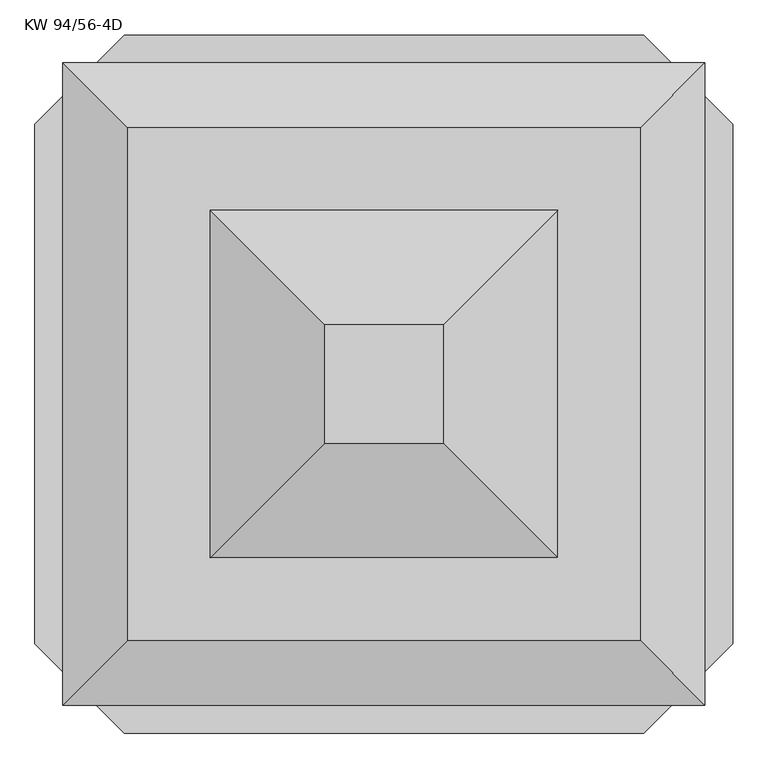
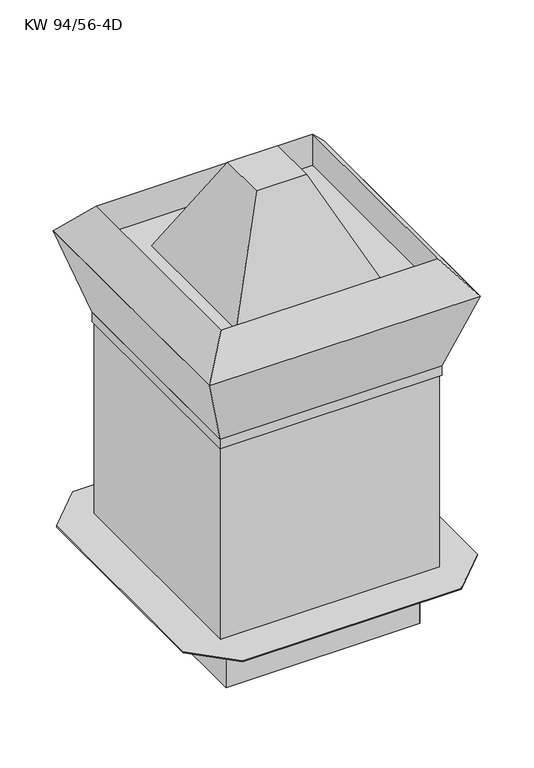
"""IFC4 building model written with IfcOpenShell, lengths in millimetres: proxy geometry, KORF_Вентилятор_Вытяжной_Крышный_KW : KW 94/56-4D."""

import ifcopenshell
import ifcopenshell.guid

model = None  # the IFC model being written
_history = None  # IfcOwnerHistory: only IFC2X3 demands one
_inside = {}  # id of a spatial element -> (the spatial element, [elements in it])
_under = {}  # id of a project, library or spatial element -> (it, [spatial elements below it])
_declared = {}  # id of a project -> (the project, [libraries it declares])
_typed = {}  # id of a type object -> (the type object, [elements of that type])
_made_of = {}  # id of a material, layer set ... -> (it, [elements and type objects made of it])


def new_model(schema):
    """Start an empty IFC model of exactly this schema.

    Asked for "IFC4X3", IfcOpenShell would pick the latest addendum, in which some entities
    have other attributes; the version numbers below select the first issue.
    IFC2X3 requires an IfcOwnerHistory on every rooted entity: one is made here for all.
    """
    global model, _history
    if schema == "IFC4X3":
        model = ifcopenshell.file(schema_version=(4, 3, 0, 0))
    else:
        model = ifcopenshell.file(schema=schema)
    _inside.clear()
    _under.clear()
    _declared.clear()
    _typed.clear()
    _made_of.clear()
    _history = None
    if model.schema == "IFC2X3":
        org = make("IfcOrganization", Name="unknown")
        user = make(
            "IfcPersonAndOrganization",
            ThePerson=make("IfcPerson", FamilyName="unknown"),
            TheOrganization=org,
        )
        app = make(
            "IfcApplication",
            ApplicationDeveloper=org,
            Version="unknown",
            ApplicationFullName="unknown",
            ApplicationIdentifier="unknown",
        )
        _history = make(
            "IfcOwnerHistory",
            OwningUser=user,
            OwningApplication=app,
            ChangeAction="ADDED",
            CreationDate=0,
        )
    return model


def make(cls, **values):
    """One entity of the class cls with the attributes given. An attribute that is None is left unset."""
    return model.create_entity(
        cls, **{name: value for name, value in values.items() if value is not None}
    )


def rooted(cls, **values):
    """An entity with a GlobalId (a new one), such as an element, a storey or a relation."""
    return make(cls, GlobalId=ifcopenshell.guid.new(), OwnerHistory=_history, **values)


def si_unit(unit_type, name, prefix=None):
    """IfcSIUnit, for example si_unit("LENGTHUNIT", "METRE", prefix="MILLI")."""
    return make("IfcSIUnit", UnitType=unit_type, Prefix=prefix, Name=name)


def assignment(units):
    """IfcUnitAssignment: the units of a project."""
    return None if units is None else make("IfcUnitAssignment", Units=units)


def point(xyz):
    """IfcCartesianPoint."""
    return None if xyz is None else make("IfcCartesianPoint", Coordinates=xyz)


def direction(xyz):
    """IfcDirection."""
    return None if xyz is None else make("IfcDirection", DirectionRatios=xyz)


def frame(location, z_axis=None, x_axis=None):
    """IfcAxis2Placement3D, a coordinate frame: its origin and axes. An axis left out is left unset."""
    return make(
        "IfcAxis2Placement3D",
        Location=point(location),
        Axis=direction(z_axis),
        RefDirection=direction(x_axis),
    )


def origin():
    """The frame at (0, 0, 0) with its axes left unset."""
    return frame((0.0, 0.0, 0.0))


def place(relative_to, where):
    """IfcLocalPlacement: puts the frame where relative to a parent placement (None: the world)."""
    return make(
        "IfcLocalPlacement", PlacementRelTo=relative_to, RelativePlacement=where
    )


def context(
    kind, dimensions, precision=None, world=None, true_north=None, identifier=None
):
    """IfcGeometricRepresentationContext, for example the 3D "Model" context."""
    return make(
        "IfcGeometricRepresentationContext",
        ContextIdentifier=identifier,
        ContextType=kind,
        CoordinateSpaceDimension=dimensions,
        Precision=precision,
        WorldCoordinateSystem=world,
        TrueNorth=true_north,
    )


def project(units=None, contexts=None):
    """IfcProject with its units and contexts."""
    return rooted(
        "IfcProject",
        Name="project",
        RepresentationContexts=contexts,
        UnitsInContext=assignment(units),
    )


def spatial(cls, under=None, at=None, **own):
    """A site, building, storey or space (cls), placed at a placement, below another one or the project."""
    s = rooted(cls, ObjectPlacement=at, **own)
    if under is not None:
        _under.setdefault(under.id(), (under, []))[1].append(s)
    return s


def polyline(points):
    """IfcPolyline through the points."""
    return make("IfcPolyline", Points=[point(p) for p in points])


def outline(outer, holes=None, kind="AREA"):
    """IfcArbitraryClosedProfileDef: a profile drawn as a closed curve; with holes, ...WithVoids."""
    if holes is None:
        return make("IfcArbitraryClosedProfileDef", ProfileType=kind, OuterCurve=outer)
    return make(
        "IfcArbitraryProfileDefWithVoids",
        ProfileType=kind,
        OuterCurve=outer,
        InnerCurves=holes,
    )


def extrude(swept, where, along, depth):
    """IfcExtrudedAreaSolid: the profile swept, set in the frame where, extruded along a direction by depth."""
    return make(
        "IfcExtrudedAreaSolid",
        SweptArea=swept,
        Position=where,
        ExtrudedDirection=direction(along),
        Depth=depth,
    )


def faces_of(points, faces, orient=None, outer=None):
    """IfcFace entities. A face is a list of loops; a loop is a list of indices into points, from 0.

    orient and outer hold one flag for each loop. By default every Orientation is true, the
    first loop of a face is its IfcFaceOuterBound and the others are IfcFaceBound.
    """
    made = []
    for i, loops in enumerate(faces):
        bounds = []
        for j, loop in enumerate(loops):
            is_outer = j == 0 if outer is None else outer[i][j]
            bounds.append(
                make(
                    "IfcFaceOuterBound" if is_outer else "IfcFaceBound",
                    Bound=make("IfcPolyLoop", Polygon=[points[k] for k in loop]),
                    Orientation=True if orient is None else orient[i][j],
                )
            )
        made.append(make("IfcFace", Bounds=bounds))
    return made


def faceted_brep(points, faces, orient=None, outer=None, voids=None):
    """IfcFacetedBrep: a solid bounded by flat faces; with voids (closed shells), ...WithVoids."""
    shared = [point(p) for p in points]
    hull = make("IfcClosedShell", CfsFaces=faces_of(shared, faces, orient, outer))
    if voids is None:
        return make("IfcFacetedBrep", Outer=hull)
    return make(
        "IfcFacetedBrepWithVoids",
        Outer=hull,
        Voids=[
            make(cls, CfsFaces=faces_of(shared, fs, o, b)) for cls, fs, o, b in voids
        ],
    )


def shape(context_of_items, identifier, shape_type, items):
    """IfcShapeRepresentation: the items that make up one representation, for example the "Body"."""
    return make(
        "IfcShapeRepresentation",
        ContextOfItems=context_of_items,
        RepresentationIdentifier=identifier,
        RepresentationType=shape_type,
        Items=items,
    )


def source(mapping_origin, context_of_items, identifier, shape_type, items):
    """IfcRepresentationMap: a shape defined once, which mapped items show again and again."""
    return make(
        "IfcRepresentationMap",
        MappingOrigin=mapping_origin,
        MappedRepresentation=shape(context_of_items, identifier, shape_type, items),
    )


def transform(
    local_origin,
    x_axis=None,
    y_axis=None,
    z_axis=None,
    scale=None,
    scale2=None,
    scale3=None,
    uniform=True,
):
    """IfcCartesianTransformationOperator3D, or its non-uniform kind. x_axis, y_axis, z_axis: its Axis1, 2, 3."""
    if uniform:
        return make(
            "IfcCartesianTransformationOperator3D",
            Axis1=direction(x_axis),
            Axis2=direction(y_axis),
            LocalOrigin=point(local_origin),
            Scale=scale,
            Axis3=direction(z_axis),
        )
    return make(
        "IfcCartesianTransformationOperator3DnonUniform",
        Axis1=direction(x_axis),
        Axis2=direction(y_axis),
        LocalOrigin=point(local_origin),
        Scale=scale,
        Axis3=direction(z_axis),
        Scale2=scale2,
        Scale3=scale3,
    )


def mapped(mapping_source, mapping_target):
    """IfcMappedItem: shows the shape of a source again, moved by a transform."""
    return make(
        "IfcMappedItem", MappingSource=mapping_source, MappingTarget=mapping_target
    )


def made_of(thing, what):
    """Note that an element or type object is made of a material, layer set ...; save() writes the relation."""
    if what is not None:
        _made_of.setdefault(what.id(), (what, []))[1].append(thing)
    return thing


def element(
    cls,
    number,
    at=None,
    inside=None,
    cuts=None,
    type_object=None,
    material=None,
    context=None,
    identifier="Body",
    shape_type=None,
    held_by="IfcProductDefinitionShape",
    body=None,
    shapes=None,
    **own,
):
    """One element of the class cls, such as IfcWall. Its Tag is "e" and its number.

    at: its placement. inside: the storey or other place that contains it. cuts: it is an
    opening in that element (IfcRelVoidsElement). A single representation is given by context,
    identifier, shape_type and body (its items); several are given by shapes. held_by: the class
    of the entity that holds the representations. save() writes the other relations.
    """
    e = rooted(cls, Tag="e%d" % number, ObjectPlacement=at, **own)
    if body is not None:
        shapes = [shape(context, identifier, shape_type, body)]
    if shapes is not None:
        e.Representation = make(held_by, Representations=shapes)
    if inside is not None:
        _inside.setdefault(inside.id(), (inside, []))[1].append(e)
    if cuts is not None:
        rooted(
            "IfcRelVoidsElement", RelatingBuildingElement=cuts, RelatedOpeningElement=e
        )
    if type_object is not None:
        _typed.setdefault(type_object.id(), (type_object, []))[1].append(e)
    return made_of(e, material)


def aggregate(whole, parts):
    """IfcRelAggregates: a whole, such as a stair, and the parts it consists of."""
    return rooted("IfcRelAggregates", RelatingObject=whole, RelatedObjects=parts)


def save(model, path):
    """Write the relations noted so far, then the file.

    IfcRelAggregates (storeys below a building ...), IfcRelContainedInSpatialStructure (elements
    in a storey), IfcRelDefinesByType, IfcRelAssociatesMaterial and IfcRelDeclares: one each for
    every whole, place, type object, material and project.
    """
    for whole, parts in _under.values():
        aggregate(whole, parts)
    for where, things in _inside.values():
        rooted(
            "IfcRelContainedInSpatialStructure",
            RelatedElements=things,
            RelatingStructure=where,
        )
    for kind, things in _typed.values():
        rooted("IfcRelDefinesByType", RelatedObjects=things, RelatingType=kind)
    for what, things in _made_of.values():
        rooted("IfcRelAssociatesMaterial", RelatedObjects=things, RelatingMaterial=what)
    for by, libraries in _declared.values():
        rooted("IfcRelDeclares", RelatingContext=by, RelatedDefinitions=libraries)
    model.write(path)


def kw_94_56_4d_b3d4e402(model_context):
    return source(origin(), model_context, "Body", "SolidModel", [
        faceted_brep([(412.5, 435.0, -1.0), (412.5, 412.5, -1.0), (-412.5, 412.5, -1.0), (-412.5, 435.0, -1.0), (412.5, -412.5, -1.0), (412.5, -435.0, -1.0), (-412.5, -435.0, -1.0), (-412.5, -412.5, -1.0), (-412.5, 435.0, 0.0), (412.5, 435.0, 0.0), (-412.5, 412.5, 0.0), (412.5, 412.5, 0.0), (-412.5, -435.0, 0.0), (-412.5, -412.5, 0.0), (412.5, -435.0, 0.0), (412.5, -412.5, 0.0), (-436.5, 412.5, 0.0), (-436.5, -412.5, 0.0), (435.0, -412.5, 0.0), (435.0, 412.5, 0.0), (411.5, 411.5, 0.0), (411.5, -411.5, 0.0), (-411.5, -411.5, 0.0), (-411.5, 411.5, 0.0), (-436.5, 412.5, -1.0), (-436.5, -412.5, -1.0), (435.0, -412.5, -1.0), (435.0, 412.5, -1.0), (412.5, -412.5, -264.0), (-412.5, -412.5, -264.0), (-412.5, 412.5, -264.0), (412.5, 412.5, -264.0), (411.5, 411.5, -264.0), (-411.5, 411.5, -264.0), (-411.5, -411.5, -264.0), (411.5, -411.5, -264.0)], [[[0, 1, 2, 3]], [[4, 5, 6, 7]], [[0, 3, 8, 9]], [[3, 2, 10, 8]], [[1, 0, 9, 11]], [[7, 6, 12, 13]], [[6, 5, 14, 12]], [[5, 4, 15, 14]], [[16, 17, 13, 12, 14, 15, 18, 19, 11, 9, 8, 10], [20, 21, 22, 23]], [[24, 2, 7, 25]], [[26, 4, 1, 27]], [[17, 16, 24, 25]], [[13, 17, 25, 7]], [[16, 10, 2, 24]], [[19, 18, 26, 27]], [[11, 19, 27, 1]], [[18, 15, 4, 26]], [[28, 29, 30, 31], [32, 33, 34, 35]], [[28, 31, 1, 4]], [[31, 30, 2, 1]], [[30, 29, 7, 2]], [[29, 28, 4, 7]], [[21, 20, 32, 35]], [[22, 21, 35, 34]], [[23, 22, 34, 33]], [[20, 23, 33, 32]]]),
        faceted_brep([(465.0, 465.0, 907.0), (-465.0, 465.0, 907.0), (-465.0, -465.0, 907.0), (465.0, -465.0, 907.0), (465.0, 625.0, 0.0), (625.0, 465.0, 0.0), (625.0, -465.0, 0.0), (465.0, -625.0, 0.0), (-465.0, -625.0, 0.0), (-625.0, -465.0, 0.0), (-625.0, 465.0, 0.0), (-465.0, 625.0, 0.0), (465.0, 465.0, 5.0), (-465.0, 465.0, 5.0), (-465.0, -465.0, 5.0), (465.0, -465.0, 5.0), (465.0, 625.0, 5.0), (-465.0, 625.0, 5.0), (-625.0, 465.0, 5.0), (-625.0, -465.0, 5.0), (-465.0, -625.0, 5.0), (465.0, -625.0, 5.0), (625.0, -465.0, 5.0), (625.0, 465.0, 5.0)], [[[0, 1, 2, 3]], [[4, 5, 6, 7, 8, 9, 10, 11]], [[1, 0, 12, 13]], [[2, 1, 13, 14]], [[3, 2, 14, 15]], [[0, 3, 15, 12]], [[16, 17, 18, 19, 20, 21, 22, 23], [13, 12, 15, 14]], [[17, 16, 4, 11]], [[18, 17, 11, 10]], [[19, 18, 10, 9]], [[20, 19, 9, 8]], [[21, 20, 8, 7]], [[22, 21, 7, 6]], [[23, 22, 6, 5]], [[16, 23, 5, 4]]]),
        faceted_brep([(106.0, 106.0, 1674.0), (-106.0, 106.0, 1674.0), (-106.0, -106.0, 1674.0), (106.0, -106.0, 1674.0), (311.0, 311.0, 1246.3), (311.0, -311.0, 1246.3), (-311.0, -311.0, 1246.3), (-311.0, 311.0, 1246.3)], [[[0, 1, 2, 3]], [[4, 5, 6, 7]], [[4, 7, 1, 0]], [[7, 6, 2, 1]], [[6, 5, 3, 2]], [[5, 4, 0, 3]]]),
        faceted_brep([(575.0, 575.0, 1246.3), (575.0, -575.0, 1246.3), (-575.0, -575.0, 1246.3), (-575.0, 575.0, 1246.3), (460.0, 460.0, 1246.3), (-460.0, 460.0, 1246.3), (-460.0, -460.0, 1246.3), (460.0, -460.0, 1246.3), (-460.0, 460.0, 1386.0), (460.0, 460.0, 1386.0), (-460.0, -460.0, 1386.0), (460.0, -460.0, 1386.0)], [[[0, 1, 2, 3], [4, 5, 6, 7]], [[0, 3, 8, 9]], [[3, 2, 10, 8]], [[2, 1, 11, 10]], [[1, 0, 9, 11]], [[8, 5, 4, 9]], [[5, 8, 10, 6]], [[6, 10, 11, 7]], [[9, 4, 7, 11]]]),
        faceted_brep([(575.0, 575.0, 1246.3), (-575.0, 575.0, 1246.3), (-575.0, -575.0, 1246.3), (575.0, -575.0, 1246.3), (471.0, 471.0, 907.0), (471.0, -471.0, 907.0), (-471.0, -471.0, 907.0), (-471.0, 471.0, 907.0)], [[[0, 1, 2, 3]], [[4, 5, 6, 7]], [[4, 7, 1, 0]], [[7, 6, 2, 1]], [[6, 5, 3, 2]], [[5, 4, 0, 3]]]),
        extrude(outline(polyline([(471.0, 471.0), (471.0, -471.0), (-471.0, -471.0), (-471.0, 471.0), (471.0, 471.0)]), holes=[polyline([(468.0, 468.0), (-468.0, 468.0), (-468.0, -468.0), (468.0, -468.0), (468.0, 468.0)])]), frame((0.0, 0.0, 864.0), z_axis=(0.0, 0.0, 1.0), x_axis=(1.0, 0.0, 0.0)), (0.0, 0.0, 1.0), 43.0),
    ])


if __name__ == "__main__":
    model = new_model("IFC4")
    model_context = context("Model", 3, world=origin())
    ifc_project = project(units=[si_unit("LENGTHUNIT", "METRE", prefix="MILLI")], contexts=[model_context])
    site = spatial("IfcSite", under=ifc_project)
    building = spatial("IfcBuilding", under=site)
    placement = place(None, origin())
    kw_94_56_4d_shape = kw_94_56_4d_b3d4e402(model_context)
    element("IfcBuildingElementProxy", 1, Name="KORF_Вентилятор_Вытяжной_Крышный_KW : KW 94/56-4D", ObjectType="KORF_Вентилятор_Вытяжной_Крышный_KW : KW 94/56-4D", at=placement, inside=building, context=model_context, shape_type="MappedRepresentation", body=[
        mapped(kw_94_56_4d_shape, transform((0.0, 0.0, 0.0), x_axis=(1.0, 0.0, 0.0), y_axis=(0.0, 1.0, 0.0), z_axis=(0.0, 0.0, 1.0))),
    ])
    save(model, "model.ifc")
